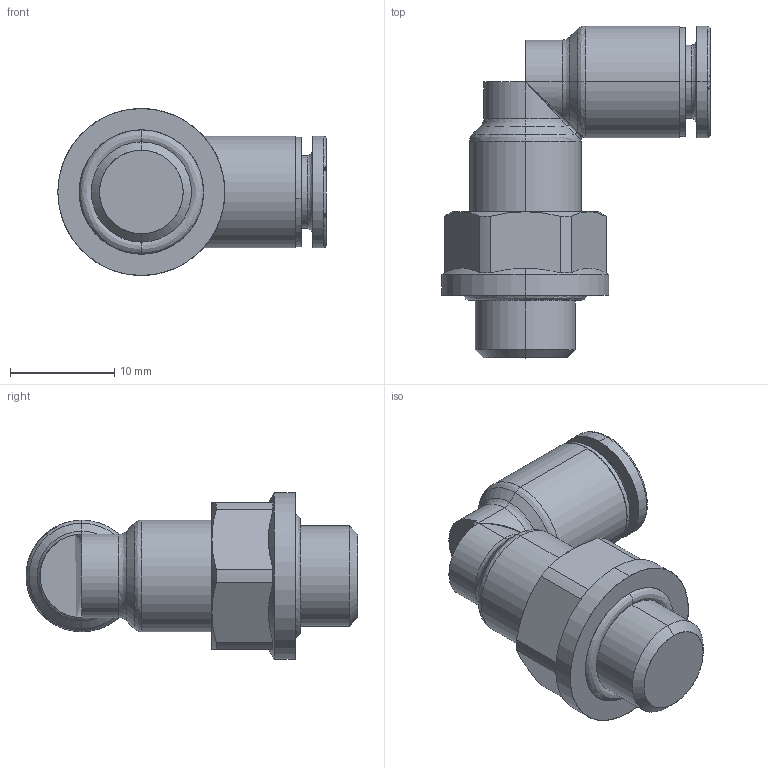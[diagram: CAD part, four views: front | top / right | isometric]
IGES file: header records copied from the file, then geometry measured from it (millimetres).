
Start section: SolidWorks IGES file using analytic representation for surfaces
Global section: file name: K:\Disegni Esecutivi\SERIE 54000\54000-Assiemi\54117\IGES e STEP\5411700013A.IGS; native system: SolidWorks 2020; preprocessor: SolidWorks 2020; author: LUCA COMETTI; date: 250627.153724; units: millimetre
Bounding box: 25.7 x 31.8 x 16 mm (x, y, z)
Surface area: 2266.1 mm2 (no closed solid volume)
Topology: 0 solids, 0 shells, 187 faces, 1814 edges, 1810 vertices
Faces by surface type: bspline 130, revolution 57
